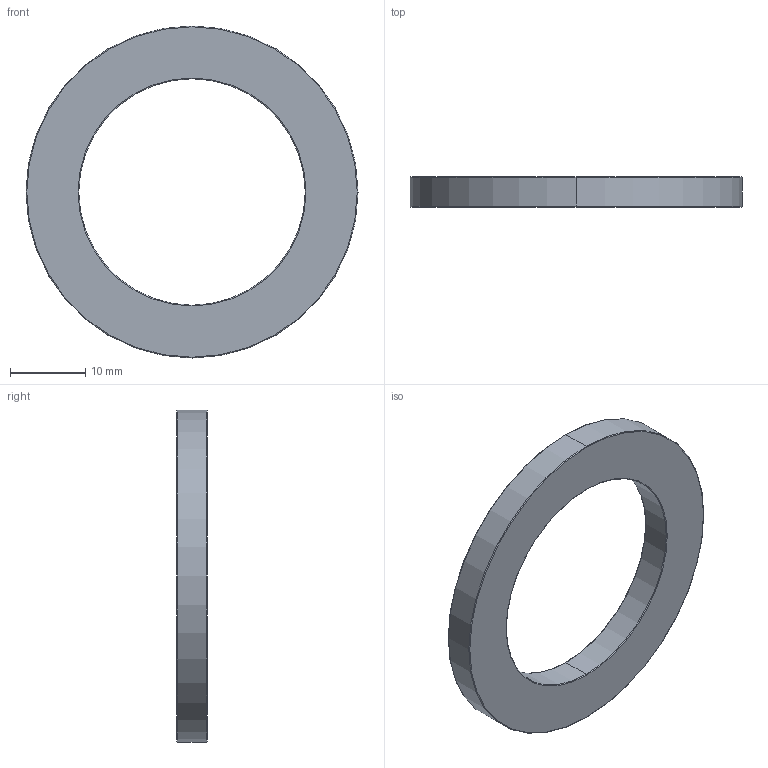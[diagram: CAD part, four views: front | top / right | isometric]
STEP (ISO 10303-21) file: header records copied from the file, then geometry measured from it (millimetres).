
FILE_DESCRIPTION (( 'STEP AP214' ), '1' );
FILE_NAME ('MAG025_OD44_ID30_H4.STEP', '2023-08-31T08:30:37', ( '' ), ( '' ), 'SwSTEP 2.0', 'SolidWorks 2022', '' );
FILE_SCHEMA (( 'AUTOMOTIVE_DESIGN' ));
Length unit declared in the file: millimetre
Products named in the file (1): MAG025_OD44_ID30_H4
Bounding box: 44 x 4 x 44 mm (x, y, z)
Volume: 3253.7 mm3; surface area: 2537.3 mm2
Topology: 1 solids, 1 shells, 14 faces, 28 edges, 16 vertices
Faces by surface type: torus 8, cylinder 4, plane 2
Entity records: 410 total; most frequent: DIRECTION 82, CARTESIAN_POINT 59, ORIENTED_EDGE 56, AXIS2_PLACEMENT_3D 39, EDGE_CURVE 28, CIRCLE 24, EDGE_LOOP 16, VERTEX_POINT 16
